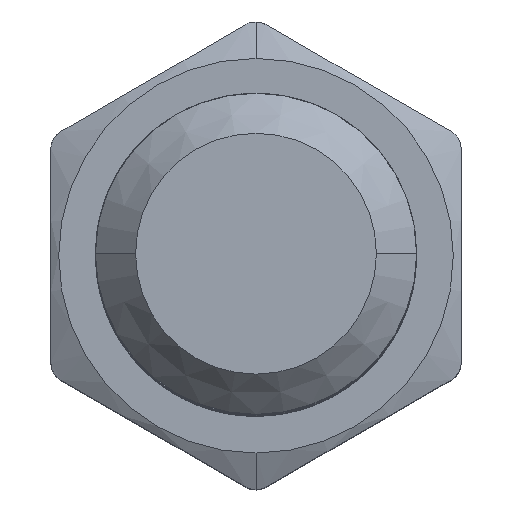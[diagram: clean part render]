
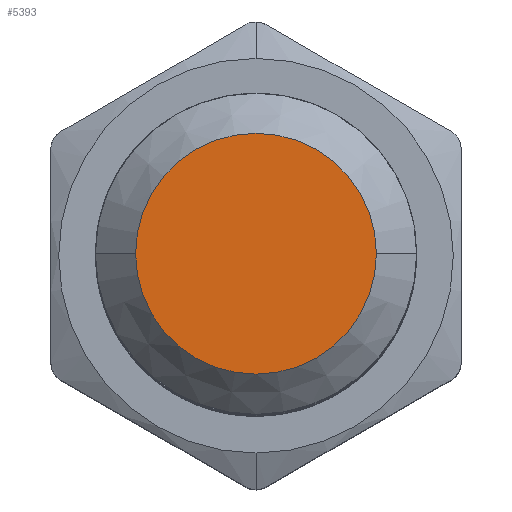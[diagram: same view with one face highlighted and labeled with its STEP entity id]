
A CAD part, top view. The second image highlights one B-rep face of the part: STEP entity #5393.
In plain terms, the highlighted planar face has unit normal (0, 0, 1).
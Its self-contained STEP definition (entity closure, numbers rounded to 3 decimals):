
#2312=CARTESIAN_POINT('',(0.,0.,45.));
#2313=DIRECTION('',(0.,0.,1.));
#2314=DIRECTION('',(1.,0.,0.));
#2315=AXIS2_PLACEMENT_3D('',#2312,#2313,#2314);
#2317=CARTESIAN_POINT('',(0.,0.,45.));
#2318=DIRECTION('',(0.,0.,1.));
#2319=DIRECTION('',(-1.,0.,0.));
#2320=AXIS2_PLACEMENT_3D('',#2317,#2318,#2319);
#3602=CARTESIAN_POINT('',(3.,0.,45.));
#3603=CARTESIAN_POINT('',(-3.,0.,45.));
#3604=VERTEX_POINT('',#3602);
#3605=VERTEX_POINT('',#3603);
#5384=CARTESIAN_POINT('',(0.,0.,45.));
#5385=DIRECTION('',(0.,0.,1.));
#5386=DIRECTION('',(1.,0.,0.));
#5387=AXIS2_PLACEMENT_3D('',#5384,#5385,#5386);
#5388=PLANE('',#5387);
#5389=ORIENTED_EDGE('',*,*,#5378,.F.);
#5390=ORIENTED_EDGE('',*,*,#5364,.F.);
#5391=EDGE_LOOP('',(#5389,#5390));
#5392=FACE_OUTER_BOUND('',#5391,.F.);
#2316=CIRCLE('',#2315,3.);
#2321=CIRCLE('',#2320,3.);
#5364=EDGE_CURVE('',#3605,#3604,#2321,.T.);
#5378=EDGE_CURVE('',#3604,#3605,#2316,.T.);
#5393=ADVANCED_FACE('',(#5392),#5388,.T.);
